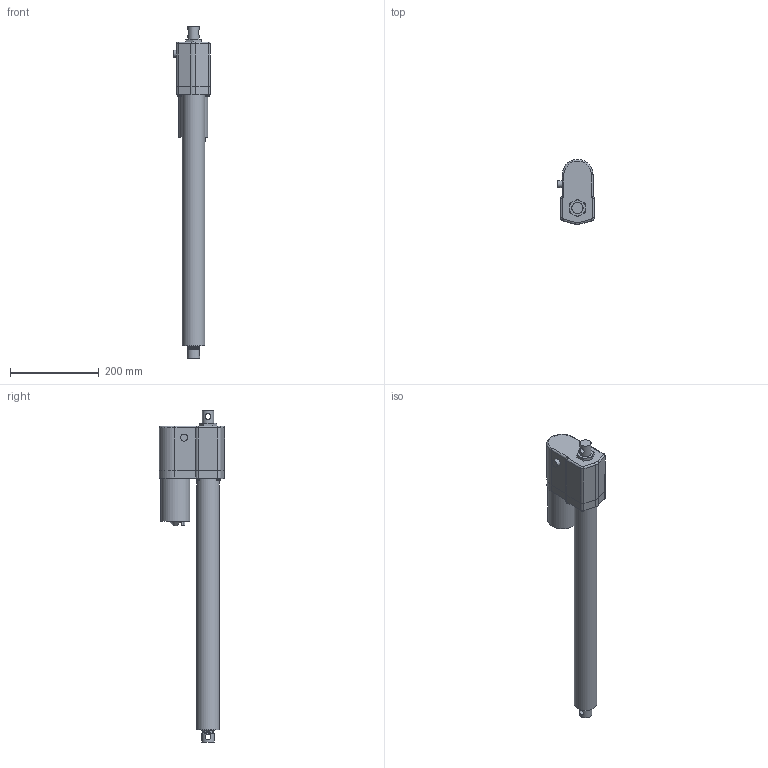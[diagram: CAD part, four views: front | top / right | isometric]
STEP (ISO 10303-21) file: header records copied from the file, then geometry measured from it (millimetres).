
FILE_DESCRIPTION (( 'STEP AP214' ), '1' );
FILE_NAME ('D12-05A5-18M0NPO-tollo.step', '2020-04-13T14:56:00', ( '' ), ( '' ), 'SwSTEP 2.0', 'SolidWorks 2010', '' );
FILE_SCHEMA (( 'AUTOMOTIVE_DESIGN' ));
Length unit declared in the file: millimetre
Products named in the file (6): Electrak-LA10-Motor-D12-05A5-18M0NPO-tollo_Electrak-LA10-Motor-D12-05A5-18M0NPO-tollo; Electrak-LA10-Rear-D12-05A5-18M0NPO-tollo_Electrak-LA10-Rear-D12-05A5-18M0NPO-tollo; Electrak-LA10-Tube-D12-05A5-18M0NPO-tollo_Electrak-LA10-Tube-D12-05A5-18M0NPO-tollo; Electrak-LA10-Rod-D12-05A5-18M0NPO-tollo_Electrak-LA10-Rod-D12-05A5-18M0NPO-tollo; Screw-M6S-M5-D12-05A5-18M0NPO-tollo_Screw-M6S-M5-D12-05A5-18M0NPO-tollo; D12-05A5-18M0NPO-tollo
Assembly tree (8 placements, depth 2):
  D12-05A5-18M0NPO-tollo
    Electrak-LA10-Motor-D12-05A5-18M0NPO-tollo_Electrak-LA10-Motor-D12-05A5-18M0NPO-tollo
    Screw-M6S-M5-D12-05A5-18M0NPO-tollo_Screw-M6S-M5-D12-05A5-18M0NPO-tollo  x4
    Electrak-LA10-Rod-D12-05A5-18M0NPO-tollo_Electrak-LA10-Rod-D12-05A5-18M0NPO-tollo
    Electrak-LA10-Tube-D12-05A5-18M0NPO-tollo_Electrak-LA10-Tube-D12-05A5-18M0NPO-tollo
    Electrak-LA10-Rear-D12-05A5-18M0NPO-tollo_Electrak-LA10-Rear-D12-05A5-18M0NPO-tollo
Bounding box: 82.72 x 147.19 x 749.8 mm (x, y, z)
Volume: 2625231.7 mm3; surface area: 312411.2 mm2
Topology: 8 solids, 8 shells, 193 faces, 439 edges, 283 vertices
Faces by surface type: plane 82, cylinder 77, cone 22, torus 12
Full cylindrical faces by diameter (mm): 4 x2, 4.126 x4, 4.8 x10, 5 x4, 7.878 x4, 12.8 x2, 16 x1, 25.4 x1, 28.6 x4, 51 x1, 65.3 x1
Entity records: 4139 total; most frequent: CARTESIAN_POINT 1139, DIRECTION 600, ORIENTED_EDGE 476, AXIS2_PLACEMENT_3D 251, EDGE_CURVE 238, EDGE_LOOP 188, VERTEX_POINT 174, FACE_OUTER_BOUND 149
